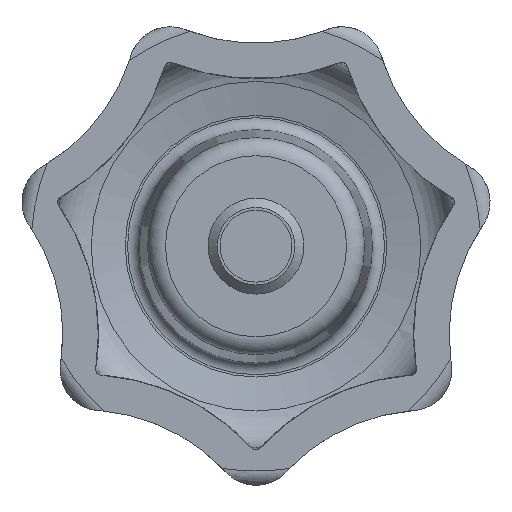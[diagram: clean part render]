
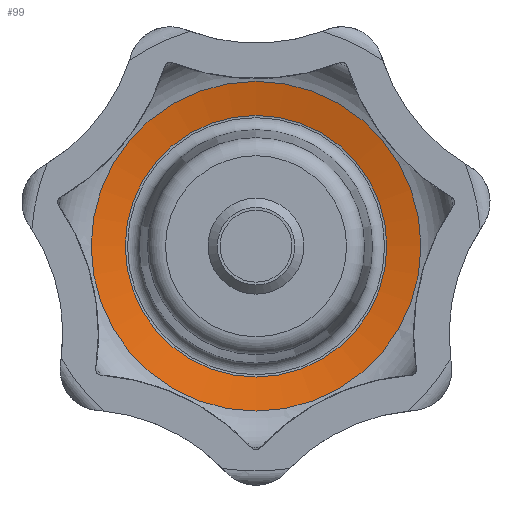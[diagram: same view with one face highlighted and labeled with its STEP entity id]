
A CAD part, front view. The second image highlights one B-rep face of the part: STEP entity #99.
In plain terms, the highlighted conical face has half-angle 77.493 degrees and reference radius 13.75 mm.
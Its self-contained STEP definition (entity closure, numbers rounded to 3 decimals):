
#99 = ADVANCED_FACE( '', ( #193, #194 ), #195, .F. );
#193 = FACE_BOUND( '', #370, .T. );
#194 = FACE_OUTER_BOUND( '', #371, .T. );
#195 = CONICAL_SURFACE( '', #372, 13.75, 1.353 );
#370 = EDGE_LOOP( '', ( #722 ) );
#371 = EDGE_LOOP( '', ( #723 ) );
#372 = AXIS2_PLACEMENT_3D( '', #724, #725, #726 );
#722 = ORIENTED_EDGE( '', *, *, #1140, .F. );
#723 = ORIENTED_EDGE( '', *, *, #997, .T. );
#724 = CARTESIAN_POINT( '', ( 0., 20.82, 0. ) );
#725 = DIRECTION( '', ( 0., -1., 0. ) );
#726 = DIRECTION( '', ( 0., 0., -1. ) );
#997 = EDGE_CURVE( '', #1172, #1172, #1173, .T. );
#1140 = EDGE_CURVE( '', #1421, #1421, #1422, .T. );
#1172 = VERTEX_POINT( '', #1469 );
#1173 = CIRCLE( '', #1470, 13.75 );
#1421 = VERTEX_POINT( '', #2819 );
#1422 = CIRCLE( '', #2820, 10.91 );
#1469 = CARTESIAN_POINT( '', ( 0., 20.82, -13.75 ) );
#1470 = AXIS2_PLACEMENT_3D( '', #3019, #3020, #3021 );
#2819 = CARTESIAN_POINT( '', ( 0., 21.45, -10.91 ) );
#2820 = AXIS2_PLACEMENT_3D( '', #3177, #3178, #3179 );
#3019 = CARTESIAN_POINT( '', ( 0., 20.82, 0. ) );
#3020 = DIRECTION( '', ( 0., -1., 0. ) );
#3021 = DIRECTION( '', ( 0., 0., -1. ) );
#3177 = CARTESIAN_POINT( '', ( 0., 21.45, 0. ) );
#3178 = DIRECTION( '', ( 0., -1., 0. ) );
#3179 = DIRECTION( '', ( 0., 0., -1. ) );
